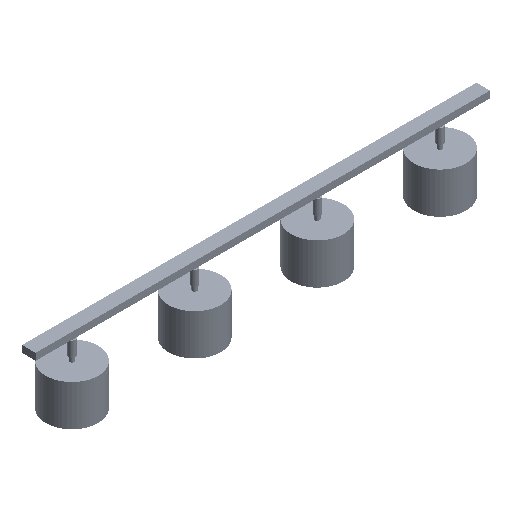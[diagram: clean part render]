
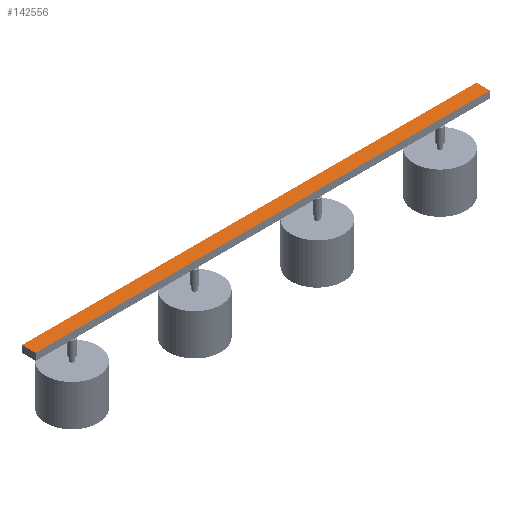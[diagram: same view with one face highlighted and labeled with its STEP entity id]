
A CAD part, isometric view. The second image highlights one B-rep face of the part: STEP entity #142556.
In plain terms, the highlighted free-form (B-spline) face has degree [1, 1] with [2, 2] control points.
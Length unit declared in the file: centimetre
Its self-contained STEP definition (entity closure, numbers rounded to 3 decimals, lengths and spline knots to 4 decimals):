
#142445 = CARTESIAN_POINT ('', (-47.1624, 66.4611, 104.5309));
#142446 = VERTEX_POINT ('', #142445);
#142461 = CARTESIAN_POINT ('', (52.8373, 66.4611, 104.5309));
#142462 = VERTEX_POINT ('', #142461);
#142468 = CARTESIAN_POINT ('', (52.8373, 66.4611, 104.5309));
#142469 = CARTESIAN_POINT ('', (-47.1624, 66.4611, 104.5309));
#142470 = B_SPLINE_CURVE_WITH_KNOTS ('', 1, (#142468, #142469), .UNSPECIFIED., .F., .U., (2, 2), (0., 1.), .UNSPECIFIED.);
#142471 = EDGE_CURVE ('', #142462, #142446, #142470, .T.);
#142509 = CARTESIAN_POINT ('', (-47.1624, 69.4611, 104.5309));
#142510 = VERTEX_POINT ('', #142509);
#142516 = CARTESIAN_POINT ('', (52.8373, 69.4611, 104.5309));
#142517 = VERTEX_POINT ('', #142516);
#142518 = CARTESIAN_POINT ('', (-47.1624, 69.4611, 104.5309));
#142519 = CARTESIAN_POINT ('', (52.8373, 69.4611, 104.5309));
#142520 = B_SPLINE_CURVE_WITH_KNOTS ('', 1, (#142518, #142519), .UNSPECIFIED., .F., .U., (2, 2), (0., 1.), .UNSPECIFIED.);
#142521 = EDGE_CURVE ('', #142510, #142517, #142520, .T.);
#142537 = CARTESIAN_POINT ('', (-47.1624, 69.4611, 104.5309));
#142538 = CARTESIAN_POINT ('', (-47.1624, 66.4611, 104.5309));
#142539 = B_SPLINE_CURVE_WITH_KNOTS ('', 1, (#142537, #142538), .UNSPECIFIED., .F., .U., (2, 2), (0., 1.), .UNSPECIFIED.);
#142540 = EDGE_CURVE ('', #142510, #142446, #142539, .T.);
#142541 = ORIENTED_EDGE ('', *, *, #142540, .T.);
#142542 = ORIENTED_EDGE ('', *, *, #142471, .F.);
#142543 = CARTESIAN_POINT ('', (52.8373, 69.4611, 104.5309));
#142544 = CARTESIAN_POINT ('', (52.8373, 66.4611, 104.5309));
#142545 = B_SPLINE_CURVE_WITH_KNOTS ('', 1, (#142543, #142544), .UNSPECIFIED., .F., .U., (2, 2), (0., 1.), .UNSPECIFIED.);
#142546 = EDGE_CURVE ('', #142517, #142462, #142545, .T.);
#142547 = ORIENTED_EDGE ('', *, *, #142546, .F.);
#142548 = ORIENTED_EDGE ('', *, *, #142521, .F.);
#142549 = EDGE_LOOP ('', (#142541, #142542, #142547, #142548));
#142550 = FACE_OUTER_BOUND ('', #142549, .T.);
#142551 = CARTESIAN_POINT ('', (107.8844, -37.0858, 104.5309));
#142552 = CARTESIAN_POINT ('', (-102.2094, -37.0858, 104.5309));
#142553 = CARTESIAN_POINT ('', (107.8844, 173.008, 104.5309));
#142554 = CARTESIAN_POINT ('', (-102.2094, 173.008, 104.5309));
#142555 = B_SPLINE_SURFACE_WITH_KNOTS ('', 1, 1, ((#142551, #142552), (#142553, #142554)), .UNSPECIFIED., .F., .F., .U., (2, 2), (2, 2), (0., 1.), (0., 1.), .UNSPECIFIED.);
#142556 = ADVANCED_FACE ('', (#142550), #142555, .T.);
